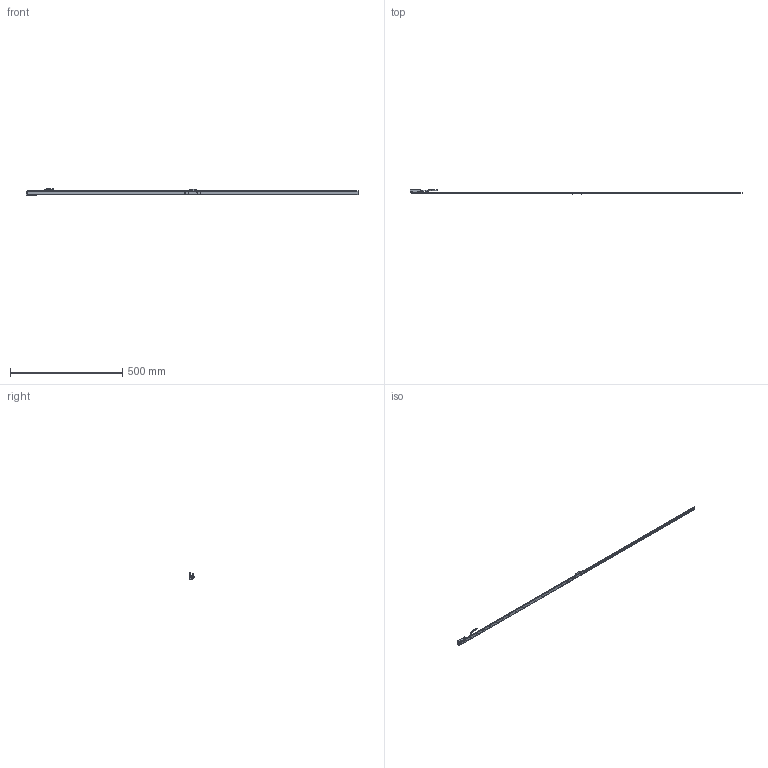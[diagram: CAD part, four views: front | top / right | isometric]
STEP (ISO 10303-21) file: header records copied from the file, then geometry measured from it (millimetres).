
FILE_DESCRIPTION(('Creo Elements/Direct Modeling STEP Export'),'2;1');
FILE_NAME('EXG_EXGA-1440.stp','2017-01-13T14:18:30',(''),(''),'Creo Elements/Direct Modeling STEP processor for AP214 (Solid Model)','Creo Elements/Direct Modeling 18.1H 24-Oct-2015 (C) Parametric Technology GmbH','');
FILE_SCHEMA(('AUTOMOTIVE_DESIGN { 1 0 10303 214 1 1 1 1 }'));
Length unit declared in the file: millimetre
Products named in the file (4): CABEZA_REGLA_EXPOSED; Regla_64
Assembly tree (2 placements, depth 2):
  CABEZA_REGLA_EXPOSED
    CABEZA_REGLA_EXPOSED
  Regla_64
    Regla_64
Bounding box: 1478 x 19.51 x 29.33 mm (x, y, z)
Volume: 61748.5 mm3; surface area: 97853 mm2
Topology: 2 solids, 4 shells, 508 faces, 1339 edges, 854 vertices
Faces by surface type: plane 255, cylinder 149, cone 88, torus 16
Entity records: 16964 total; most frequent: CARTESIAN_POINT 2901, ORIENTED_EDGE 2654, DIRECTION 2465, EDGE_CURVE 1327, VERTEX_POINT 854, AXIS2_PLACEMENT_3D 847, VECTOR 771, LINE 771
